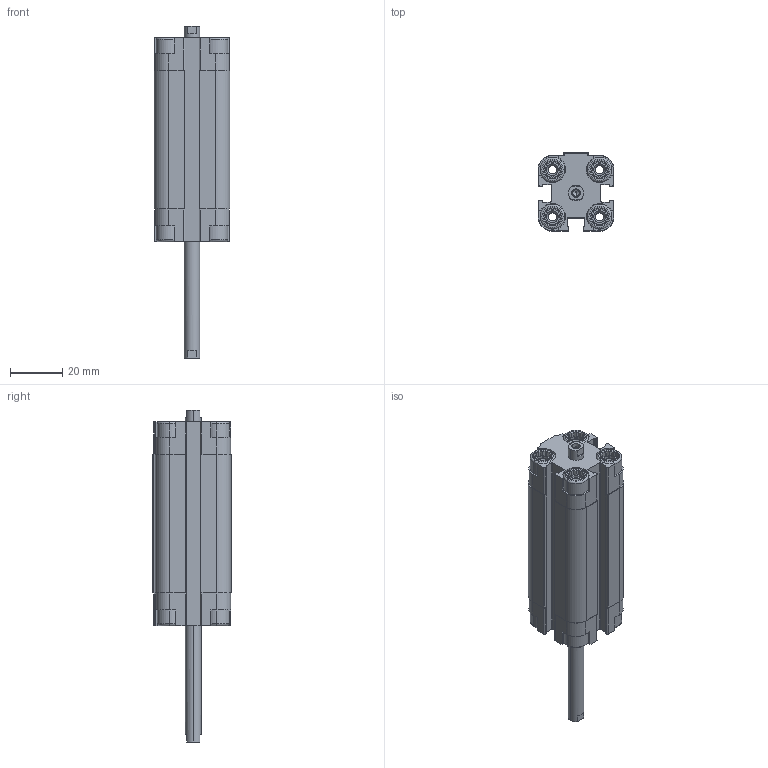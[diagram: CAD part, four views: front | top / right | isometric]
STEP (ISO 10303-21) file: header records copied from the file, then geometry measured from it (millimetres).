
FILE_DESCRIPTION (( 'STEP AP203' ), '1' );
FILE_NAME ('CDVU12-40F-P.STEP', '2020-07-24T18:02:04', ( '' ), ( '' ), 'SwSTEP 2.0', 'SolidWorks 2019', '' );
FILE_SCHEMA (( 'CONFIG_CONTROL_DESIGN' ));
Length unit declared in the file: millimetre
Products named in the file (1): CDVU12-40F-P
Bounding box: 29 x 30 x 127 mm (x, y, z)
Volume: 46845.8 mm3; surface area: 24777.7 mm2
Topology: 2 solids, 2 shells, 566 faces, 1508 edges, 980 vertices
Faces by surface type: plane 338, cylinder 164, cone 48, torus 16
Entity records: 17779 total; most frequent: CARTESIAN_POINT 3623, ORIENTED_EDGE 3000, DIRECTION 2850, EDGE_CURVE 1500, VERTEX_POINT 980, AXIS2_PLACEMENT_3D 975, LINE 900, VECTOR 900
